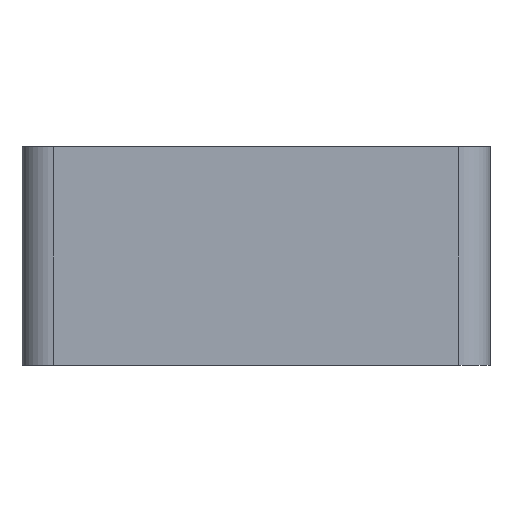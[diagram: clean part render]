
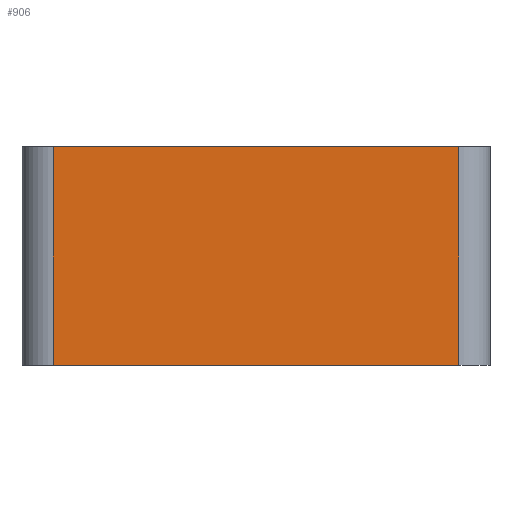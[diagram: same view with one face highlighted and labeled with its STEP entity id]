
A CAD part, front view. The second image highlights one B-rep face of the part: STEP entity #906.
In plain terms, the highlighted planar face has unit normal (0, -1, 0).
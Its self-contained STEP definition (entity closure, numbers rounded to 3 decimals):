
#57 = LINE ( 'NONE', #61, #561 ) ;
#61 = CARTESIAN_POINT ( 'NONE',  ( 13., -15., -14. ) ) ;
#67 = EDGE_CURVE ( 'NONE', #331, #1076, #1163, .T. ) ;
#85 = DIRECTION ( 'NONE',  ( 0., 0., -1. ) ) ;
#88 = EDGE_CURVE ( 'NONE', #1076, #1241, #307, .T. ) ;
#256 = CARTESIAN_POINT ( 'NONE',  ( 15., -15., -14. ) ) ;
#307 = LINE ( 'NONE', #700, #611 ) ;
#309 = ORIENTED_EDGE ( 'NONE', *, *, #88, .F. ) ;
#331 = VERTEX_POINT ( 'NONE', #420 ) ;
#371 = CARTESIAN_POINT ( 'NONE',  ( -13., -15., 0. ) ) ;
#399 = CARTESIAN_POINT ( 'NONE',  ( -13., -15., -14. ) ) ;
#420 = CARTESIAN_POINT ( 'NONE',  ( -13., -15., -14. ) ) ;
#533 = CARTESIAN_POINT ( 'NONE',  ( 13., -15., 0. ) ) ;
#537 = VECTOR ( 'NONE', #1179, 1000. ) ;
#561 = VECTOR ( 'NONE', #85, 1000. ) ;
#566 = ORIENTED_EDGE ( 'NONE', *, *, #67, .F. ) ;
#577 = VECTOR ( 'NONE', #838, 1000. ) ;
#607 = CARTESIAN_POINT ( 'NONE',  ( 13., -15., -14. ) ) ;
#611 = VECTOR ( 'NONE', #745, 1000. ) ;
#700 = CARTESIAN_POINT ( 'NONE',  ( 15., -15., 0. ) ) ;
#702 = FACE_OUTER_BOUND ( 'NONE', #773, .T. ) ;
#745 = DIRECTION ( 'NONE',  ( 1., 0., 0. ) ) ;
#773 = EDGE_LOOP ( 'NONE', ( #309, #566, #1052, #1157 ) ) ;
#777 = LINE ( 'NONE', #256, #537 ) ;
#780 = EDGE_CURVE ( 'NONE', #1241, #865, #57, .T. ) ;
#838 = DIRECTION ( 'NONE',  ( 0., 0., 1. ) ) ;
#865 = VERTEX_POINT ( 'NONE', #607 ) ;
#887 = PLANE ( 'NONE',  #1152 ) ;
#906 = ADVANCED_FACE ( 'NONE', ( #702 ), #887, .F. ) ;
#909 = CARTESIAN_POINT ( 'NONE',  ( 15., -15., -14. ) ) ;
#1006 = DIRECTION ( 'NONE',  ( 0., 1., 0. ) ) ;
#1016 = DIRECTION ( 'NONE',  ( -1., 0., 0. ) ) ;
#1052 = ORIENTED_EDGE ( 'NONE', *, *, #1060, .T. ) ;
#1060 = EDGE_CURVE ( 'NONE', #331, #865, #777, .T. ) ;
#1076 = VERTEX_POINT ( 'NONE', #371 ) ;
#1152 = AXIS2_PLACEMENT_3D ( 'NONE', #909, #1006, #1016 ) ;
#1157 = ORIENTED_EDGE ( 'NONE', *, *, #780, .F. ) ;
#1163 = LINE ( 'NONE', #399, #577 ) ;
#1179 = DIRECTION ( 'NONE',  ( 1., 0., 0. ) ) ;
#1241 = VERTEX_POINT ( 'NONE', #533 ) ;
